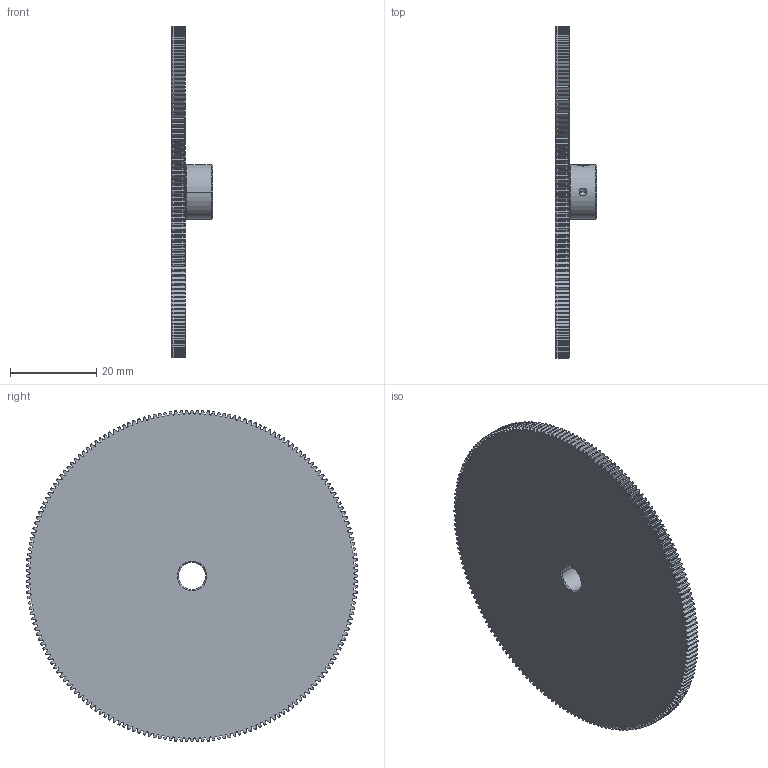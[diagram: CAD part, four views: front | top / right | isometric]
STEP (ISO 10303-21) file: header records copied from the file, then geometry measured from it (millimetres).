
FILE_DESCRIPTION((''),'2;1');
FILE_NAME('56935','2011-01-23T',('carefree'),(''),'PRO/ENGINEER BY PARAMETRIC TECHNOLOGY CORPORATION, 2005030','PRO/ENGINEER BY PARAMETRIC TECHNOLOGY CORPORATION, 2005030','');
FILE_SCHEMA(('CONFIG_CONTROL_DESIGN'));
Products named in the file (1): 56935
Bounding box: 9.53 x 76.99 x 76.99 mm (x, y, z)
Volume: 14951.5 mm3; surface area: 11059.9 mm2
Topology: 2 solids, 2 shells, 1582 faces, 4707 edges, 3129 vertices
Faces by surface type: cylinder 780, torus 386, extrusion 384, plane 18, cone 12, bspline 2
Entity records: 61835 total; most frequent: CARTESIAN_POINT 20488, ORIENTED_EDGE 9410, DIRECTION 7887, EDGE_CURVE 4705, AXIS2_PLACEMENT_3D 3148, VERTEX_POINT 3129, CIRCLE 1952, B_SPLINE_CURVE_WITH_KNOTS 1930
